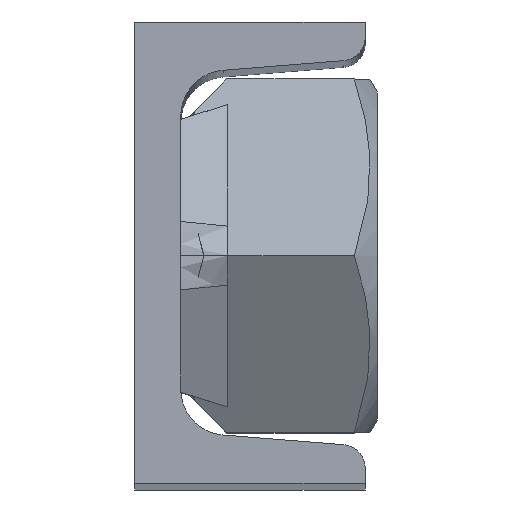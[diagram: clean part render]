
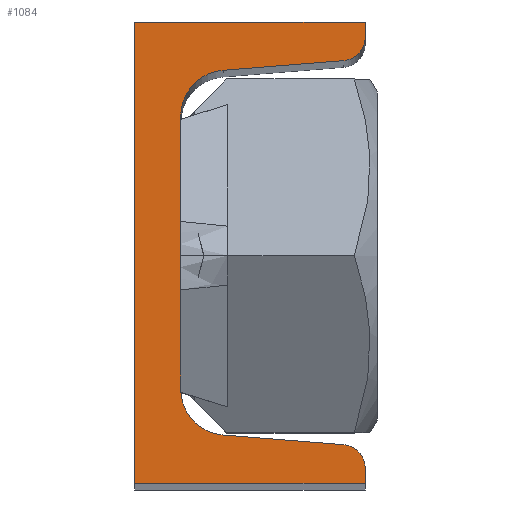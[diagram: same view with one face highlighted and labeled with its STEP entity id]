
A CAD part, top view. The second image highlights one B-rep face of the part: STEP entity #1084.
In plain terms, the highlighted planar face has unit normal (0, 0, 1).
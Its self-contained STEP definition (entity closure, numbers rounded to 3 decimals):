
#114=CIRCLE('',#1163,3.);
#115=CIRCLE('',#1166,6.);
#116=CIRCLE('',#1169,6.);
#117=CIRCLE('',#1172,3.);
#177=FACE_OUTER_BOUND('',#261,.T.);
#261=EDGE_LOOP('',(#918,#919,#920,#921,#922,#923,#924,#925,#926,#927,#928,
#929));
#354=LINE('',#1805,#436);
#357=LINE('',#1810,#439);
#360=LINE('',#1818,#442);
#363=LINE('',#1826,#445);
#366=LINE('',#1834,#448);
#369=LINE('',#1842,#451);
#371=LINE('',#1846,#453);
#373=LINE('',#1849,#455);
#436=VECTOR('',#1365,30.);
#439=VECTOR('',#1370,2.03);
#442=VECTOR('',#1379,15.768);
#445=VECTOR('',#1388,35.482);
#448=VECTOR('',#1397,15.768);
#451=VECTOR('',#1406,2.03);
#453=VECTOR('',#1410,30.);
#455=VECTOR('',#1414,60.);
#534=VERTEX_POINT('',#1803);
#535=VERTEX_POINT('',#1804);
#536=VERTEX_POINT('',#1809);
#537=VERTEX_POINT('',#1813);
#538=VERTEX_POINT('',#1817);
#539=VERTEX_POINT('',#1821);
#540=VERTEX_POINT('',#1825);
#541=VERTEX_POINT('',#1829);
#542=VERTEX_POINT('',#1833);
#543=VERTEX_POINT('',#1837);
#544=VERTEX_POINT('',#1841);
#545=VERTEX_POINT('',#1845);
#655=EDGE_CURVE('',#534,#535,#354,.T.);
#658=EDGE_CURVE('',#535,#536,#357,.T.);
#660=EDGE_CURVE('',#536,#537,#114,.T.);
#662=EDGE_CURVE('',#537,#538,#360,.T.);
#664=EDGE_CURVE('',#538,#539,#115,.T.);
#666=EDGE_CURVE('',#539,#540,#363,.T.);
#668=EDGE_CURVE('',#540,#541,#116,.T.);
#670=EDGE_CURVE('',#541,#542,#366,.T.);
#672=EDGE_CURVE('',#542,#543,#117,.T.);
#674=EDGE_CURVE('',#543,#544,#369,.T.);
#676=EDGE_CURVE('',#544,#545,#371,.T.);
#678=EDGE_CURVE('',#545,#534,#373,.T.);
#918=ORIENTED_EDGE('',*,*,#655,.F.);
#919=ORIENTED_EDGE('',*,*,#678,.F.);
#920=ORIENTED_EDGE('',*,*,#676,.F.);
#921=ORIENTED_EDGE('',*,*,#674,.F.);
#922=ORIENTED_EDGE('',*,*,#672,.F.);
#923=ORIENTED_EDGE('',*,*,#670,.F.);
#924=ORIENTED_EDGE('',*,*,#668,.F.);
#925=ORIENTED_EDGE('',*,*,#666,.F.);
#926=ORIENTED_EDGE('',*,*,#664,.F.);
#927=ORIENTED_EDGE('',*,*,#662,.F.);
#928=ORIENTED_EDGE('',*,*,#660,.F.);
#929=ORIENTED_EDGE('',*,*,#658,.F.);
#1028=PLANE('',#1176);
#1084=ADVANCED_FACE('',(#177),#1028,.T.);
#1163=AXIS2_PLACEMENT_3D('',#1814,#1374,#1375);
#1166=AXIS2_PLACEMENT_3D('',#1822,#1383,#1384);
#1169=AXIS2_PLACEMENT_3D('',#1830,#1392,#1393);
#1172=AXIS2_PLACEMENT_3D('',#1838,#1401,#1402);
#1176=AXIS2_PLACEMENT_3D('',#1850,#1415,#1416);
#1365=DIRECTION('',(1.,0.,0.));
#1370=DIRECTION('',(0.,-1.,0.));
#1374=DIRECTION('center_axis',(0.,0.,-1.));
#1375=DIRECTION('ref_axis',(-0.08,0.997,0.));
#1379=DIRECTION('',(-0.997,-0.08,0.));
#1383=DIRECTION('center_axis',(0.,0.,1.));
#1384=DIRECTION('ref_axis',(-0.08,0.997,0.));
#1388=DIRECTION('',(0.,-1.,0.));
#1392=DIRECTION('center_axis',(0.,0.,1.));
#1393=DIRECTION('ref_axis',(-1.,0.,0.));
#1397=DIRECTION('',(0.997,-0.08,0.));
#1401=DIRECTION('center_axis',(0.,0.,-1.));
#1402=DIRECTION('ref_axis',(-1.,0.,0.));
#1406=DIRECTION('',(0.,-1.,0.));
#1410=DIRECTION('',(-1.,0.,0.));
#1414=DIRECTION('',(0.,1.,0.));
#1415=DIRECTION('center_axis',(0.,0.,1.));
#1416=DIRECTION('ref_axis',(1.,0.,0.));
#1803=CARTESIAN_POINT('',(0.,30.,250.));
#1804=CARTESIAN_POINT('',(30.,30.,250.));
#1805=CARTESIAN_POINT('',(0.,30.,250.));
#1809=CARTESIAN_POINT('',(30.,27.97,250.));
#1810=CARTESIAN_POINT('',(30.,30.,250.));
#1813=CARTESIAN_POINT('',(27.239,24.979,250.));
#1814=CARTESIAN_POINT('Origin',(27.,27.97,250.));
#1817=CARTESIAN_POINT('',(11.522,23.722,250.));
#1818=CARTESIAN_POINT('',(27.239,24.979,250.));
#1821=CARTESIAN_POINT('',(6.,17.741,250.));
#1822=CARTESIAN_POINT('Origin',(12.,17.741,250.));
#1825=CARTESIAN_POINT('',(6.,-17.741,250.));
#1826=CARTESIAN_POINT('',(6.,0.,250.));
#1829=CARTESIAN_POINT('',(11.522,-23.722,250.));
#1830=CARTESIAN_POINT('Origin',(12.,-17.741,250.));
#1833=CARTESIAN_POINT('',(27.239,-24.979,250.));
#1834=CARTESIAN_POINT('',(11.522,-23.722,250.));
#1837=CARTESIAN_POINT('',(30.,-27.97,250.));
#1838=CARTESIAN_POINT('Origin',(27.,-27.97,250.));
#1841=CARTESIAN_POINT('',(30.,-30.,250.));
#1842=CARTESIAN_POINT('',(30.,-27.97,250.));
#1845=CARTESIAN_POINT('',(0.,-30.,250.));
#1846=CARTESIAN_POINT('',(30.,-30.,250.));
#1849=CARTESIAN_POINT('',(0.,0.,250.));
#1850=CARTESIAN_POINT('Origin',(10.322,0.,
250.));
